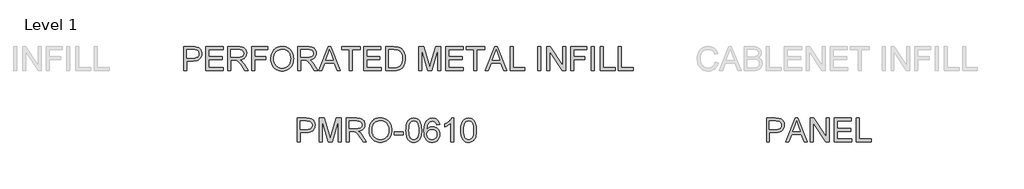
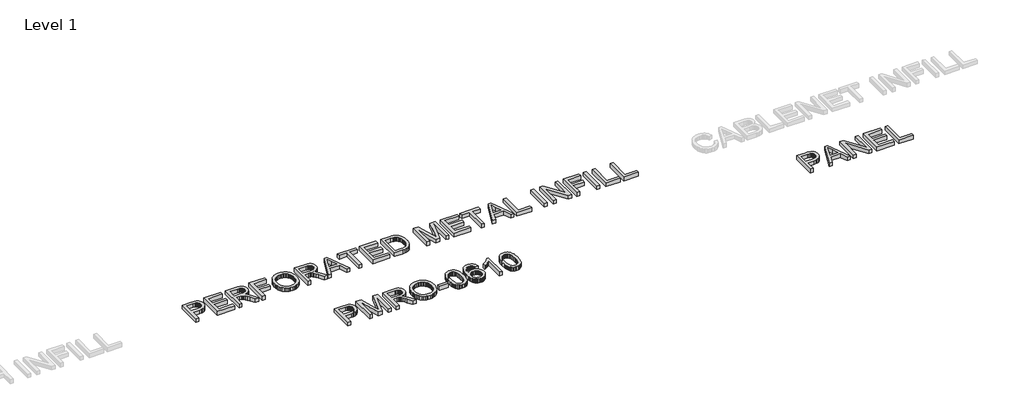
# One storey, part 5 of 8: 3 proxies.
"""IFC4 building model written with IfcOpenShell, lengths in millimetres."""

from ifc_helpers import new_model, si_unit, origin, origin_with_axes, place, context, project, spatial, polyline, outline, extrude, element, save

model = new_model("IFC4")

# Units and contexts
model_context = context("Model", 3, world=origin())
ifc_project = project(units=[si_unit("LENGTHUNIT", "METRE", prefix="MILLI")], contexts=[model_context])

# Site, building, storey
site = spatial("IfcSite", under=ifc_project)
building = spatial("IfcBuilding", under=site)
storey = spatial("IfcBuildingStorey", under=building, Name="Level 1", Elevation=0.0)

# Proxies
placement = place(None, origin())
element("IfcBuildingElementProxy", 1, Name="36\" Arial", ObjectType="36\" Arial", at=placement, inside=storey, context=model_context, shape_type="SweptSolid", body=[
    extrude(outline(polyline([(29500.5376792, -20037.2054696), (29500.5376792, -19123.5041874), (29839.1603712, -19123.5041874), (29918.0161825, -19125.6791355), (29975.6801917, -19132.2039798), (30036.5508551, -19148.4603229), (30062.949985, -19160.4155665), (30086.6583137, -19174.9221917), (30107.9267968, -19192.2799507), (30127.0063897, -19212.7885961), (30143.8970926, -19236.4481279), (30158.5989054, -19263.2585461), (30170.5053521, -19292.3345352), (30179.009957, -19322.7907799), (30184.1127199, -19354.6272801), (30185.8136408, -19387.8440359), (30181.21976, -19443.9326018), (30167.4381176, -19495.5318518), (30144.4687136, -19542.6417857), (30112.3115479, -19585.2624037), (30092.0869703, -19604.188635), (30068.1642837, -19620.5913687), (30040.5434882, -19634.4706049), (30009.2245838, -19645.8263437), (29974.2075705, -19654.6585849), (29935.4924483, -19660.9673287), (29846.9678773, -19666.0143237), (29614.7503395, -19666.0143237), (29614.7503395, -20037.2054696), (29500.5376792, -20037.2054696)]), holes=[polyline([(29614.7503395, -19551.8016634), (29853.6600253, -19551.8016634), (29908.5914073, -19549.1805721), (29954.9345327, -19541.3172981), (29992.6894013, -19528.2118415), (30021.8560133, -19509.8642022), (30043.6194365, -19486.7623494), (30059.1647387, -19459.3942522), (30068.4919201, -19427.7599107), (30071.6009806, -19391.8593247), (30069.7676108, -19365.2022682), (30064.2675016, -19340.5528562), (30055.100653, -19317.9110886), (30042.2670649, -19297.2769654), (30026.4498941, -19279.3197014), (30008.3322974, -19264.7085115), (29987.9142748, -19253.4433956), (29965.1958264, -19245.5243537), (29921.1391849, -19239.6687242), (29850.9831661, -19237.7168476), (29614.7503395, -19237.7168476), (29614.7503395, -19551.8016634)])]), origin_with_axes(), (0.0, 0.0, 1.0), 152.4),
    extrude(outline(polyline([(30342.8560487, -20037.2054696), (30342.8560487, -19123.5041874), (30539.3821302, -19123.5041874), (30726.3161327, -19767.5119026), (30764.0152335, -19902.0240787), (30804.8373367, -19756.3583225), (30988.6483368, -19123.5041874), (31185.1744183, -19123.5041874), (31185.1744183, -20037.2054696), (31070.961758, -20037.2054696), (31070.961758, -19237.7168476), (30841.4210794, -20037.2054696), (30686.6093876, -20037.2054696), (30457.068709, -19237.7168476), (30457.068709, -20037.2054696), (30342.8560487, -20037.2054696)])), origin_with_axes(), (0.0, 0.0, 1.0), 152.4),
    extrude(outline(polyline([(31385.0465737, -20037.2054696), (31385.0465737, -19123.5041874), (31778.7679514, -19123.5041874), (31835.2817476, -19125.0447756), (31884.5875427, -19129.6665404), (31926.6853366, -19137.3694816), (31961.5751294, -19148.1535994), (31991.2854784, -19162.8484412), (32017.844941, -19182.2835545), (32041.2535172, -19206.4589394), (32061.5112071, -19235.3745958), (32077.8581729, -19267.4759936), (32089.5345771, -19301.2086024), (32096.5404196, -19336.5724223), (32098.8757005, -19373.5674533), (32095.0068024, -19420.4961416), (32083.4001081, -19463.5768448), (32064.0556176, -19502.8095628), (32036.9733309, -19538.1942957), (32001.8046986, -19568.6017434), (31958.2011714, -19592.9026061), (31906.1627492, -19611.0968836), (31845.6894321, -19623.1845761), (31883.3327649, -19647.7782202), (31910.6032683, -19672.0372569), (31957.3925368, -19727.526318), (32003.1779832, -19789.5959912), (32155.5358874, -20037.2054696), (32022.8082841, -20037.2054696), (31903.9111202, -19847.8176794), (31856.3411011, -19775.5424803), (31818.0285534, -19722.451439), (31786.1014304, -19685.8955802), (31757.687685, -19663.2259287), (31730.779673, -19649.9252844), (31703.3697499, -19641.4764474), (31637.1174841, -19637.4611586), (31499.259234, -19637.4611586), (31499.259234, -20037.2054696), (31385.0465737, -20037.2054696)]), holes=[polyline([(31499.259234, -19523.2484983), (31754.89929, -19523.2484983), (31828.3177311, -19519.2053255), (31885.2846414, -19507.0758072), (31908.1913066, -19497.7765098), (31928.170157, -19486.0513087), (31945.2211925, -19471.9002039), (31959.3444133, -19455.3231955), (31970.4213126, -19437.1358889), (31978.3333835, -19418.1538898), (31983.080626, -19398.3771981), (31984.6630402, -19377.8058138), (31981.6446026, -19348.5973759), (31972.5892897, -19322.0936811), (31957.4971016, -19298.2947296), (31936.3680383, -19277.2005212), (31908.7141307, -19259.926414), (31874.0474095, -19247.587766), (31832.3678748, -19240.1845772), (31783.6755267, -19237.7168476), (31499.259234, -19237.7168476), (31499.259234, -19523.2484983)])]), origin_with_axes(), (0.0, 0.0, 1.0), 152.4),
    extrude(outline(polyline([(32255.9181083, -19592.400695), (32257.8211879, -19537.2776108), (32263.5304268, -19485.2287321), (32273.0458248, -19436.254059), (32286.367382, -19390.3535914), (32303.4950985, -19347.5273293), (32324.4289741, -19307.7752727), (32349.169009, -19271.0974216), (32377.7152031, -19237.493776), (32409.2693783, -19207.4313922), (32443.0333566, -19181.3773261), (32479.0071379, -19159.331578), (32517.1907223, -19141.2941476), (32557.5841097, -19127.2650352), (32600.1873003, -19117.2442405), (32645.0002938, -19111.2317638), (32692.0230904, -19109.2276048), (32753.4932588, -19112.9919381), (32811.8683087, -19124.284938), (32867.1482401, -19143.1066044), (32919.333053, -19169.4569374), (32966.95884, -19202.5412444), (33008.5616938, -19241.5648328), (33044.1416144, -19286.5277026), (33073.6986016, -19337.4298538), (33096.9259322, -19393.1141025), (33113.5168826, -19452.4232647), (33123.4714529, -19515.3573404), (33126.7896429, -19581.9163297), (33123.2971782, -19649.3536634), (33112.8197839, -19713.1381996), (33095.35746, -19773.2699384), (33070.9102066, -19829.7488796), (33040.0566156, -19881.0832321), (33003.3752791, -19925.7812043), (32960.8661969, -19963.8427964), (32912.5293691, -19995.2680084), (32860.2678753, -20019.8616525), (32805.9847952, -20037.4285412), (32749.6801286, -20047.9686744), (32691.3538756, -20051.4820521), (32628.8101752, -20047.599212), (32569.6683167, -20035.9506918), (32513.9283001, -20016.5364914), (32461.5901255, -19989.3566109), (32414.0201063, -19955.4636694), (32372.5845562, -19915.9102859), (32337.2834752, -19870.6964606), (32308.1168632, -19819.8221933), (32285.279908, -19765.3299835), (32268.9677971, -19709.2623305), (32259.1805305, -19651.6192344), (32255.9181083, -19592.400695)]), holes=[polyline([(32370.1307686, -19593.516053), (32375.8400074, -19669.2349199), (32382.9765559, -19703.9051266), (32392.9677239, -19736.449182), (32405.8135112, -19766.8670863), (32421.513918, -19795.1588393), (32440.0689441, -19821.3244411), (32461.4785897, -19845.3638918), (32510.059402, -19885.572548), (32536.5299846, -19901.3688059), (32564.454018, -19914.2930168), (32624.6624376, -19931.5252981), (32690.6846608, -19937.2693918), (32757.8361841, -19931.4695302), (32789.0749221, -19924.2197031), (32818.7556444, -19914.0699452), (32846.878351, -19901.0202565), (32873.4430418, -19885.0706369), (32898.449717, -19866.2210866), (32921.8983764, -19844.4716054), (32943.1511747, -19820.0557214), (32961.5702666, -19793.2069628), (32977.1556521, -19763.9253295), (32989.9073311, -19732.2108216), (32999.8253037, -19698.063439), (33006.9095698, -19661.4831818), (33012.5769827, -19581.0240433), (33010.151079, -19528.7555785), (33002.873368, -19479.9168396), (32990.7438496, -19434.5078266), (32973.7625239, -19392.5285395), (32952.1176075, -19354.5296863), (32925.9973171, -19321.061975), (32895.4016527, -19292.1254056), (32860.3306142, -19267.7199781), (32821.8716758, -19248.3476037), (32781.1123115, -19234.5101934), (32738.0525213, -19226.2077472), (32692.6923053, -19223.4402651), (32628.9635369, -19228.7730706), (32569.8356204, -19244.7714871), (32515.3085557, -19271.4355145), (32465.3823427, -19308.7651529), (32443.057755, -19331.8792049), (32423.709779, -19358.5589171), (32407.3384147, -19388.8042894), (32393.9436621, -19422.6153218), (32383.5255212, -19459.9920144), (32376.083992, -19500.9343671), (32371.6190745, -19545.44238), (32370.1307686, -19593.516053)])]), origin_with_axes(), (0.0, 0.0, 1.0), 152.4),
    extrude(outline(polyline([(33212.4491381, -19765.9504014), (33212.4491381, -19651.7377411), (33569.3637015, -19651.7377411), (33569.3637015, -19765.9504014), (33212.4491381, -19765.9504014)])), origin_with_axes(), (0.0, 0.0, 1.0), 152.4),
    extrude(outline(polyline([(33669.2997792, -19587.7161913), (33671.3980465, -19510.8889374), (33677.6928483, -19441.4648722), (33688.1841846, -19379.4439958), (33702.8720554, -19324.8263083), (33721.6937218, -19277.1656663), (33744.586445, -19236.0159267), (33771.5502249, -19201.3770895), (33802.5850615, -19173.2491546), (33837.7955197, -19151.4857315), (33877.2861643, -19135.9404292), (33921.0569952, -19126.6132478), (33969.1080125, -19123.5041874), (34005.2177281, -19125.3445281), (34039.4871029, -19130.8655502), (34071.9161371, -19140.0672538), (34102.5048305, -19152.9496388), (34130.5142586, -19169.2966047), (34155.2054965, -19188.8920507), (34176.5785444, -19211.735977), (34194.6334022, -19237.8283834), (34224.4134611, -19299.3403777), (34248.1705867, -19373.0097743), (34257.2468125, -19416.334462), (34263.7298309, -19466.5604274), (34268.9162457, -19587.7161913), (34266.8388914, -19664.0554762), (34260.6068285, -19733.130992), (34250.220057, -19794.9427387), (34235.678577, -19849.4907164), (34217.0033013, -19897.1722714), (34194.2151429, -19938.3847498), (34167.3141019, -19973.1281519), (34136.3001782, -20001.4024774), (34101.0478941, -20023.3122914), (34061.4317718, -20038.9621584), (34017.4518112, -20048.3520787), (33969.1080125, -20051.4820521), (33906.2018207, -20046.0446818), (33850.4339202, -20029.7325709), (33825.2268291, -20017.4984877), (33801.8043109, -20002.5457194), (33780.1663655, -19984.8742659), (33760.3129929, -19964.4841273), (33738.981771, -19932.1979984), (33720.4947119, -19895.68048), (33704.8518158, -19854.9315722), (33692.0530827, -19809.9512749), (33682.0985124, -19760.7395882), (33674.9881051, -19707.296512), (33669.2997792, -19587.7161913)]), holes=[polyline([(33783.5124395, -19587.4931197), (33786.8585136, -19686.7808956), (33796.8967356, -19767.1494113), (33813.6271058, -19828.5986667), (33824.5018464, -19852.2285718), (33837.049624, -19871.1286618), (33865.3797175, -19900.0652312), (33896.8328134, -19920.7342093), (33931.4089117, -19933.1355962), (33969.1080125, -19937.2693918), (34006.8071132, -19933.1216542), (34041.3832116, -19920.6784414), (34072.8363074, -19899.9397534), (34101.1664009, -19870.9055902), (34113.7141785, -19851.9601887), (34124.5889191, -19828.3058852), (34141.3192893, -19766.8705718), (34151.3575114, -19686.59965), (34154.7035854, -19587.4931197), (34151.4690472, -19490.8334062), (34141.7654325, -19411.880001), (34125.5927413, -19350.6329042), (34115.0804921, -19326.6492215), (34102.9509737, -19307.0921159), (34075.0949074, -19276.740436), (34043.2793202, -19255.0606647), (34007.504212, -19242.0528019), (33967.7695829, -19237.7168476), (33930.2656698, -19241.5369488), (33896.2751344, -19252.9972524), (33865.7979767, -19272.0977583), (33838.8341968, -19298.8384666), (33825.86816, -19320.476412), (33814.630928, -19346.2411821), (33797.3428789, -19410.1511961), (33786.9700494, -19490.5685086), (33783.5124395, -19587.4931197)])]), origin_with_axes(), (0.0, 0.0, 1.0), 152.4),
    extrude(outline(polyline([(34954.1922073, -19366.2060905), (34839.9795471, -19380.482673), (34821.5761399, -19323.878254), (34809.9485326, -19302.3100184), (34796.7036563, -19285.2310989), (34772.1518381, -19264.443614), (34744.8952767, -19249.5954105), (34714.9339721, -19240.6864883), (34682.2679244, -19237.7168476), (34655.3320284, -19239.4456526), (34629.1768831, -19244.6320673), (34603.8024883, -19253.2760919), (34579.2088442, -19265.3777263), (34556.7692352, -19285.16836), (34536.2954448, -19309.0718764), (34517.7874728, -19337.0882754), (34501.2453193, -19369.2175571), (34487.5473287, -19407.5789017), (34477.5718455, -19454.2914893), (34471.3188697, -19509.3553201), (34468.7884012, -19572.770394), (34490.5587953, -19544.0708382), (34514.6017315, -19519.3168613), (34540.9172095, -19498.5084635), (34569.5052295, -19481.6456445), (34599.5989828, -19468.6168688), (34630.4316608, -19459.3106004), (34662.0032635, -19453.7268393), (34694.3137909, -19451.8655857), (34749.189405, -19456.9544066), (34799.8266587, -19472.2208694), (34846.2255519, -19497.664974), (34888.3860847, -19533.2867204), (34923.4222682, -19576.9669285), (34948.4481136, -19626.586418), (34963.4636208, -19682.1451889), (34968.4687899, -19743.6432412), (34966.1125961, -19785.2809499), (34959.0440147, -19825.4268673), (34947.2630457, -19864.0809934), (34930.7696891, -19901.2433281), (34910.1495079, -19935.5266449), (34885.988065, -19965.5437174), (34858.2853604, -19991.2945455), (34827.0413942, -20012.7791291), (34792.925381, -20029.7116579), (34756.6065358, -20041.8063214), (34718.0848585, -20049.0631194), (34677.3603491, -20051.4820521), (34642.4932121, -20049.878725), (34609.2747136, -20045.0687435), (34577.7048536, -20037.0521078), (34547.7836323, -20025.8288179), (34519.5110495, -20011.3988736), (34492.8871052, -19993.7622751), (34467.9117995, -19972.9190222), (34444.5851323, -19948.8691151), (34423.4891812, -19921.1385266), (34405.2060236, -19889.2532295), (34389.7356594, -19853.2132238), (34377.0780888, -19813.0185095), (34367.2333116, -19768.6690866), (34360.2013279, -19720.1649551), (34354.5757409, -19610.6925664), (34356.1372421, -19547.0788193), (34360.8217458, -19487.9613593), (34368.6292518, -19433.3401862), (34379.5597603, -19383.2153001), (34393.6132713, -19337.586701), (34410.7897846, -19296.4543889), (34431.0893004, -19259.8183637), (34454.5118186, -19227.6786255), (34477.2616366, -19203.2627416), (34501.9005921, -19182.1023088), (34528.4286853, -19164.1973273), (34556.8459161, -19149.5477969), (34587.1522845, -19138.1537177), (34619.3477906, -19130.0150898), (34653.4324343, -19125.131913), (34689.4062157, -19123.5041874), (34742.0092878, -19127.5334182), (34789.6211329, -19139.6211106), (34832.2417509, -19159.7672647), (34869.8711418, -19187.9718804), (34901.4915414, -19223.2869034), (34926.0851855, -19264.7642794), (34943.6520741, -19312.4040084), (34954.1922073, -19366.2060905)]), holes=[polyline([(34468.7884012, -19741.8586684), (34470.4405252, -19767.4491637), (34475.3968974, -19792.4680381), (34483.6575177, -19816.9152915), (34495.222386, -19840.7909239), (34509.5268525, -19862.9726064), (34526.0062671, -19882.3380098), (34544.6606298, -19898.8871343), (34565.4899407, -19912.6199798), (34588.3617509, -19923.4040976), (34613.1436117, -19931.1070388), (34639.8355231, -19935.7288036), (34668.4374851, -19937.2693918), (34708.1372592, -19934.0766795), (34743.8078026, -19924.4985426), (34775.4491152, -19908.5349811), (34803.0611969, -19886.1859949), (34825.45898, -19858.3578126), (34841.4573964, -19825.9566624), (34851.0564463, -19788.9825443), (34854.2561296, -19747.4354584), (34851.0982722, -19707.5126127), (34841.6247001, -19672.0651409), (34825.8354133, -19641.0930431), (34803.7304117, -19614.5963194), (34776.0346781, -19593.3696623), (34743.4731952, -19578.2077643), (34706.045963, -19569.1106255), (34663.7529814, -19566.0782459), (34624.5830023, -19569.1106255), (34588.4941997, -19578.2077643), (34555.4865735, -19593.3696623), (34525.5601239, -19614.5963194), (34500.7224952, -19640.7444938), (34482.9813319, -19670.6709434), (34472.3366338, -19704.3756683), (34468.7884012, -19741.8586684)])]), origin_with_axes(), (0.0, 0.0, 1.0), 152.4),
    extrude(outline(polyline([(35496.7023437, -20037.2054696), (35382.4896834, -20037.2054696), (35382.4896834, -19325.1609157), (35334.8081284, -19363.7244189), (35274.2999564, -19402.2321542), (35210.7803177, -19435.8880822), (35154.0643628, -19459.8961633), (35154.0643628, -19351.9295079), (35200.4144592, -19328.6882354), (35243.7670308, -19303.132595), (35284.1220778, -19275.2625867), (35321.4796002, -19245.0782105), (35354.7242399, -19213.973664), (35382.7406389, -19183.3431446), (35405.5287973, -19153.1866524), (35423.088715, -19123.5041874), (35496.7023437, -19123.5041874), (35496.7023437, -20037.2054696)])), origin_with_axes(), (0.0, 0.0, 1.0), 152.4),
    extrude(outline(polyline([(35767.9574118, -19587.7161913), (35770.0556791, -19510.8889374), (35776.3504808, -19441.4648722), (35786.8418171, -19379.4439958), (35801.5296879, -19324.8263083), (35820.3513544, -19277.1656663), (35843.2440775, -19236.0159267), (35870.2078574, -19201.3770895), (35901.2426941, -19173.2491546), (35936.4531523, -19151.4857315), (35975.9437968, -19135.9404292), (36019.7146277, -19126.6132478), (36067.765645, -19123.5041874), (36103.8753606, -19125.3445281), (36138.1447355, -19130.8655502), (36170.5737697, -19140.0672538), (36201.1624631, -19152.9496388), (36229.1718911, -19169.2966047), (36253.8631291, -19188.8920507), (36275.236177, -19211.735977), (36293.2910348, -19237.8283834), (36323.0710936, -19299.3403777), (36346.8282193, -19373.0097743), (36355.9044451, -19416.334462), (36362.3874635, -19466.5604274), (36367.5738783, -19587.7161913), (36365.496524, -19664.0554762), (36359.2644611, -19733.130992), (36348.8776896, -19794.9427387), (36334.3362095, -19849.4907164), (36315.6609339, -19897.1722714), (36292.8727755, -19938.3847498), (36265.9717345, -19973.1281519), (36234.9578108, -20001.4024774), (36199.7055267, -20023.3122914), (36160.0894044, -20038.9621584), (36116.1094438, -20048.3520787), (36067.765645, -20051.4820521), (36004.8594532, -20046.0446818), (35949.0915527, -20029.7325709), (35923.8844617, -20017.4984877), (35900.4619435, -20002.5457194), (35878.8239981, -19984.8742659), (35858.9706255, -19964.4841273), (35837.6394035, -19932.1979984), (35819.1523445, -19895.68048), (35803.5094484, -19854.9315722), (35790.7107152, -19809.9512749), (35780.756145, -19760.7395882), (35773.6457377, -19707.296512), (35767.9574118, -19587.7161913)]), holes=[polyline([(35882.1700721, -19587.4931197), (35885.5161461, -19686.7808956), (35895.5543682, -19767.1494113), (35912.2847384, -19828.5986667), (35923.159479, -19852.2285718), (35935.7072566, -19871.1286618), (35964.0373501, -19900.0652312), (35995.490446, -19920.7342093), (36030.0665443, -19933.1355962), (36067.765645, -19937.2693918), (36105.4647458, -19933.1216542), (36140.0408441, -19920.6784414), (36171.49394, -19899.9397534), (36199.8240335, -19870.9055902), (36212.3718111, -19851.9601887), (36223.2465517, -19828.3058852), (36239.9769219, -19766.8705718), (36250.015144, -19686.59965), (36253.361218, -19587.4931197), (36250.1266798, -19490.8334062), (36240.4230651, -19411.880001), (36224.2503739, -19350.6329042), (36213.7381247, -19326.6492215), (36201.6086063, -19307.0921159), (36173.75254, -19276.740436), (36141.9369527, -19255.0606647), (36106.1618445, -19242.0528019), (36066.4272154, -19237.7168476), (36028.9233023, -19241.5369488), (35994.9327669, -19252.9972524), (35964.4556093, -19272.0977583), (35937.4918294, -19298.8384666), (35924.5257925, -19320.476412), (35913.2885606, -19346.2411821), (35896.0005114, -19410.1511961), (35885.6276819, -19490.5685086), (35882.1700721, -19587.4931197)])]), origin_with_axes(), (0.0, 0.0, 1.0), 152.4),
])
element("IfcBuildingElementProxy", 2, Name="36\" Arial", ObjectType="36\" Arial", at=placement, inside=storey, context=model_context, shape_type="SweptSolid", body=[
    extrude(outline(polyline([(25163.7904325, -17294.991279), (25163.7904325, -16381.2899968), (25502.4131245, -16381.2899968), (25581.2689358, -16383.464945), (25638.932945, -16389.9897893), (25699.8036084, -16406.2461323), (25726.2027383, -16418.201376), (25749.911067, -16432.7080011), (25771.1795501, -16450.0657602), (25790.259143, -16470.5744056), (25807.1498459, -16494.2339374), (25821.8516587, -16521.0443556), (25833.7581054, -16550.1203447), (25842.2627103, -16580.5765894), (25847.3654732, -16612.4130896), (25849.0663941, -16645.6298453), (25844.4725133, -16701.7184113), (25830.6908709, -16753.3176612), (25807.7214669, -16800.4275952), (25775.5643012, -16843.0482132), (25755.3397236, -16861.9744444), (25731.417037, -16878.3771782), (25703.7962415, -16892.2564144), (25672.4773371, -16903.6121532), (25637.4603238, -16912.4443944), (25598.7452016, -16918.7531381), (25510.2206305, -16923.8001331), (25278.0030928, -16923.8001331), (25278.0030928, -17294.991279), (25163.7904325, -17294.991279)]), holes=[polyline([(25278.0030928, -16809.5874729), (25516.9127786, -16809.5874729), (25571.8441606, -16806.9663815), (25618.187286, -16799.1031076), (25655.9421546, -16785.9976509), (25685.1087666, -16767.6500117), (25706.8721898, -16744.5481589), (25722.417492, -16717.1800617), (25731.7446734, -16685.5457201), (25734.8537339, -16649.6451342), (25733.0203641, -16622.9880777), (25727.5202549, -16598.3386657), (25718.3534063, -16575.6968981), (25705.5198182, -16555.0627749), (25689.7026474, -16537.1055109), (25671.5850507, -16522.494321), (25651.1670281, -16511.2292051), (25628.4485797, -16503.3101632), (25584.3919382, -16497.4545336), (25514.2359194, -16495.5026571), (25278.0030928, -16495.5026571), (25278.0030928, -16809.5874729)])]), origin_with_axes(), (0.0, 0.0, 1.0), 152.4),
    extrude(outline(polyline([(26006.108802, -17294.991279), (26006.108802, -16381.2899968), (26662.8315986, -16381.2899968), (26662.8315986, -16495.5026571), (26120.3214623, -16495.5026571), (26120.3214623, -16766.7577253), (26634.2784335, -16766.7577253), (26634.2784335, -16880.9703855), (26120.3214623, -16880.9703855), (26120.3214623, -17180.7786188), (26677.1081811, -17180.7786188), (26677.1081811, -17294.991279), (26006.108802, -17294.991279)])), origin_with_axes(), (0.0, 0.0, 1.0), 152.4),
    extrude(outline(polyline([(26848.4271716, -17294.991279), (26848.4271716, -16381.2899968), (27242.1485493, -16381.2899968), (27298.6623455, -16382.8305851), (27347.9681405, -16387.4523498), (27390.0659344, -16395.1552911), (27424.9557272, -16405.9394089), (27454.6660762, -16420.6342507), (27481.2255388, -16440.069364), (27504.6341151, -16464.2447489), (27524.8918049, -16493.1604053), (27541.2387708, -16525.261803), (27552.9151749, -16558.9944119), (27559.9210174, -16594.3582318), (27562.2562983, -16631.3532628), (27558.3874002, -16678.2819511), (27546.7807059, -16721.3626542), (27527.4362154, -16760.5953723), (27500.3539287, -16795.9801051), (27465.1852964, -16826.3875529), (27421.5817692, -16850.6884156), (27369.543347, -16868.8826931), (27309.0700299, -16880.9703855), (27346.7133627, -16905.5640297), (27373.9838661, -16929.8230664), (27420.7731346, -16985.3121274), (27466.558581, -17047.3818007), (27618.9164852, -17294.991279), (27486.188882, -17294.991279), (27367.291718, -17105.6034889), (27319.7216989, -17033.3282898), (27281.4091512, -16980.2372485), (27249.4820282, -16943.6813897), (27221.0682829, -16921.0117381), (27194.1602709, -16907.7110938), (27166.7503477, -16899.2622569), (27100.4980819, -16895.2469681), (26962.6398318, -16895.2469681), (26962.6398318, -17294.991279), (26848.4271716, -17294.991279)]), holes=[polyline([(26962.6398318, -16781.0343078), (27218.2798878, -16781.0343078), (27291.6983289, -16776.991135), (27348.6652393, -16764.8616166), (27371.5719044, -16755.5623192), (27391.5507548, -16743.8371181), (27408.6017904, -16729.6860134), (27422.7250112, -16713.109005), (27433.8019104, -16694.9216984), (27441.7139813, -16675.9396993), (27446.4612238, -16656.1630075), (27448.043638, -16635.5916232), (27445.0252004, -16606.3831853), (27435.9698875, -16579.8794906), (27420.8776995, -16556.0805391), (27399.7486361, -16534.9863307), (27372.0947285, -16517.7122235), (27337.4280073, -16505.3735755), (27295.7484727, -16497.9703867), (27247.0561245, -16495.5026571), (26962.6398318, -16495.5026571), (26962.6398318, -16781.0343078)])]), origin_with_axes(), (0.0, 0.0, 1.0), 152.4),
    extrude(outline(polyline([(27762.1284538, -17294.991279), (27762.1284538, -16381.2899968), (28376.0215027, -16381.2899968), (28376.0215027, -16495.5026571), (27876.341114, -16495.5026571), (27876.341114, -16766.7577253), (28304.6385901, -16766.7577253), (28304.6385901, -16880.9703855), (27876.341114, -16880.9703855), (27876.341114, -17294.991279), (27762.1284538, -17294.991279)])), origin_with_axes(), (0.0, 0.0, 1.0), 152.4),
    extrude(outline(polyline([(28490.234163, -16850.1865045), (28492.1372426, -16795.0634203), (28497.8464814, -16743.0145416), (28507.3618795, -16694.0398685), (28520.6834367, -16648.1394008), (28537.8111531, -16605.3131387), (28558.7450288, -16565.5610821), (28583.4850637, -16528.8832311), (28612.0312578, -16495.2795855), (28643.585433, -16465.2172016), (28677.3494112, -16439.1631356), (28713.3231926, -16417.1173874), (28751.506777, -16399.0799571), (28791.9001644, -16385.0508446), (28834.5033549, -16375.03005), (28879.3163485, -16369.0175732), (28926.3391451, -16367.0134143), (28987.8093135, -16370.7777476), (29046.1843633, -16382.0707474), (29101.4642947, -16400.8924139), (29153.6491077, -16427.2427469), (29201.2748947, -16460.3270539), (29242.8777485, -16499.3506422), (29278.457669, -16544.313512), (29308.0146563, -16595.2156632), (29331.2419869, -16650.8999119), (29347.8329373, -16710.2090741), (29357.7875075, -16773.1431499), (29361.1056976, -16839.7021392), (29357.6132328, -16907.1394729), (29347.1358385, -16970.9240091), (29329.6735147, -17031.0557478), (29305.2262613, -17087.5346891), (29274.3726703, -17138.8690415), (29237.6913338, -17183.5670138), (29195.1822516, -17221.6286059), (29146.8454238, -17253.0538178), (29094.58393, -17277.647462), (29040.3008498, -17295.2143506), (28983.9961833, -17305.7544838), (28925.6699303, -17309.2678616), (28863.1262299, -17305.3850215), (28803.9843714, -17293.7365013), (28748.2443548, -17274.3223009), (28695.9061801, -17247.1424204), (28648.336161, -17213.2494788), (28606.9006109, -17173.6960954), (28571.5995299, -17128.48227), (28542.4329179, -17077.6080028), (28519.5959626, -17023.115793), (28503.2838517, -16967.04814), (28493.4965852, -16909.4050438), (28490.234163, -16850.1865045)]), holes=[polyline([(28604.4468233, -16851.3018625), (28610.1560621, -16927.0207294), (28617.2926106, -16961.6909361), (28627.2837786, -16994.2349915), (28640.1295659, -17024.6528958), (28655.8299726, -17052.9446488), (28674.3849988, -17079.1102506), (28695.7946443, -17103.1497012), (28744.3754567, -17143.3583575), (28770.8460392, -17159.1546153), (28798.7700727, -17172.0788263), (28858.9784923, -17189.3111075), (28925.0007155, -17195.0552013), (28992.1522387, -17189.2553396), (29023.3909768, -17182.0055126), (29053.0716991, -17171.8557547), (29081.1944057, -17158.806066), (29107.7590965, -17142.8564464), (29132.7657717, -17124.006896), (29156.2144311, -17102.2574148), (29177.4672294, -17077.8415309), (29195.8863213, -17050.9927723), (29211.4717068, -17021.711139), (29224.2233858, -16989.9966311), (29234.1413583, -16955.8492485), (29241.2256244, -16919.2689912), (29246.8930373, -16838.8098527), (29244.4671337, -16786.541388), (29237.1894226, -16737.7026491), (29225.0599043, -16692.2936361), (29208.0785786, -16650.314349), (29186.4336622, -16612.3154957), (29160.3133718, -16578.8477844), (29129.7177073, -16549.9112151), (29094.6466689, -16525.5057876), (29056.1877305, -16506.1334131), (29015.4283662, -16492.2960028), (28972.368576, -16483.9935566), (28927.0083599, -16481.2260746), (28863.2795916, -16486.5588801), (28804.1516751, -16502.5572965), (28749.6246103, -16529.221324), (28699.6983974, -16566.5509624), (28677.3738097, -16589.6650144), (28658.0258337, -16616.3447266), (28641.6544694, -16646.5900989), (28628.2597168, -16680.4011313), (28617.8415759, -16717.7778239), (28610.4000467, -16758.7201766), (28605.9351291, -16803.2281895), (28604.4468233, -16851.3018625)])]), origin_with_axes(), (0.0, 0.0, 1.0), 152.4),
    extrude(outline(polyline([(29518.1481055, -17294.991279), (29518.1481055, -16381.2899968), (29911.8694832, -16381.2899968), (29968.3832794, -16382.8305851), (30017.6890744, -16387.4523498), (30059.7868684, -16395.1552911), (30094.6766611, -16405.9394089), (30124.3870101, -16420.6342507), (30150.9464728, -16440.069364), (30174.355049, -16464.2447489), (30194.6127389, -16493.1604053), (30210.9597047, -16525.261803), (30222.6361089, -16558.9944119), (30229.6419514, -16594.3582318), (30231.9772322, -16631.3532628), (30228.1083341, -16678.2819511), (30216.5016398, -16721.3626542), (30197.1571493, -16760.5953723), (30170.0748626, -16795.9801051), (30134.9062304, -16826.3875529), (30091.3027031, -16850.6884156), (30039.264281, -16868.8826931), (29978.7909638, -16880.9703855), (30016.4342967, -16905.5640297), (30043.7048, -16929.8230664), (30090.4940686, -16985.3121274), (30136.2795149, -17047.3818007), (30288.6374191, -17294.991279), (30155.9098159, -17294.991279), (30037.012652, -17105.6034889), (29989.4426328, -17033.3282898), (29951.1300852, -16980.2372485), (29919.2029621, -16943.6813897), (29890.7892168, -16921.0117381), (29863.8812048, -16907.7110938), (29836.4712817, -16899.2622569), (29770.2190159, -16895.2469681), (29632.3607658, -16895.2469681), (29632.3607658, -17294.991279), (29518.1481055, -17294.991279)]), holes=[polyline([(29632.3607658, -16781.0343078), (29888.0008218, -16781.0343078), (29961.4192628, -16776.991135), (30018.3861732, -16764.8616166), (30041.2928383, -16755.5623192), (30061.2716887, -16743.8371181), (30078.3227243, -16729.6860134), (30092.4459451, -16713.109005), (30103.5228443, -16694.9216984), (30111.4349152, -16675.9396993), (30116.1821578, -16656.1630075), (30117.7645719, -16635.5916232), (30114.7461343, -16606.3831853), (30105.6908215, -16579.8794906), (30090.5986334, -16556.0805391), (30069.4695701, -16534.9863307), (30041.8156624, -16517.7122235), (30007.1489412, -16505.3735755), (29965.4694066, -16497.9703867), (29916.7770584, -16495.5026571), (29632.3607658, -16495.5026571), (29632.3607658, -16781.0343078)])]), origin_with_axes(), (0.0, 0.0, 1.0), 152.4),
    extrude(outline(polyline([(30325.4442335, -17294.991279), (30690.1663029, -16381.2899968), (30787.4255214, -16381.2899968), (31152.1475909, -17294.991279), (31031.4658541, -17294.991279), (30926.8452728, -17009.4596284), (30550.52348, -17009.4596284), (30446.1259702, -17294.991279), (30325.4442335, -17294.991279)]), holes=[polyline([(30592.4609412, -16895.2469681), (30885.1308832, -16895.2469681), (30802.817462, -16670.6138648), (30738.7959122, -16495.5026571), (30681.9126537, -16650.9835638), (30592.4609412, -16895.2469681)])]), origin_with_axes(), (0.0, 0.0, 1.0), 152.4),
    extrude(outline(polyline([(31502.5930778, -17294.991279), (31502.5930778, -16495.5026571), (31202.7848446, -16495.5026571), (31202.7848446, -16381.2899968), (31916.6139713, -16381.2899968), (31916.6139713, -16495.5026571), (31616.8057381, -16495.5026571), (31616.8057381, -17294.991279), (31502.5930778, -17294.991279)])), origin_with_axes(), (0.0, 0.0, 1.0), 152.4),
    extrude(outline(polyline([(32045.1032141, -17294.991279), (32045.1032141, -16381.2899968), (32701.8260107, -16381.2899968), (32701.8260107, -16495.5026571), (32159.3158744, -16495.5026571), (32159.3158744, -16766.7577253), (32673.2728456, -16766.7577253), (32673.2728456, -16880.9703855), (32159.3158744, -16880.9703855), (32159.3158744, -17180.7786188), (32716.1025932, -17180.7786188), (32716.1025932, -17294.991279), (32045.1032141, -17294.991279)])), origin_with_axes(), (0.0, 0.0, 1.0), 152.4),
    extrude(outline(polyline([(32887.4215836, -17294.991279), (32887.4215836, -16381.2899968), (33202.6217574, -16381.2899968), (33296.8137414, -16384.580303), (33365.6870985, -16394.4512214), (33403.525619, -16405.31202), (33438.5199766, -16419.8256161), (33470.6701713, -16437.9920097), (33499.976203, -16459.8112008), (33533.8412606, -16492.4911905), (33563.1612343, -16529.4095406), (33587.9361241, -16570.5662512), (33608.16593, -16615.9613222), (33623.878536, -16665.1764945), (33635.101826, -16717.7935086), (33641.8358, -16773.8123647), (33644.080458, -16833.2330627), (33642.5607827, -16883.7378676), (33638.0017568, -16931.3009158), (33630.4033803, -16975.9222072), (33619.7656533, -17017.6017418), (33591.9932389, -17091.0759508), (33575.5138243, -17122.6057275), (33557.3056047, -17150.6639525), (33517.375788, -17197.7041766), (33473.8768255, -17233.5350527), (33423.9366706, -17260.1084573), (33364.6832763, -17279.3762669), (33296.0051068, -17291.087526), (33217.7906263, -17294.991279), (32887.4215836, -17294.991279)]), holes=[polyline([(33001.6342439, -17180.7786188), (33203.7371154, -17180.7786188), (33287.3331983, -17176.6517941), (33350.7413012, -17164.2713202), (33398.5901598, -17144.3621797), (33435.50851, -17117.6493554), (33456.5818054, -17094.7496612), (33475.1873712, -17068.2111116), (33491.3252074, -17038.0337064), (33504.995314, -17004.2174457), (33515.8770256, -16966.6926196), (33523.6496768, -16925.3895183), (33528.3132674, -16880.3081417), (33529.8677977, -16831.4484899), (33526.8214761, -16765.1404562), (33517.6825114, -16706.9745359), (33502.4509036, -16656.9507291), (33481.1266526, -16615.0690358), (33455.4385634, -16580.3814017), (33427.115441, -16551.9397724), (33396.1572852, -16529.744148), (33362.5640961, -16513.7945285), (33333.5369039, -16505.7918348), (33296.8695093, -16500.075625), (33200.614113, -16495.5026571), (33001.6342439, -16495.5026571), (33001.6342439, -17180.7786188)])]), origin_with_axes(), (0.0, 0.0, 1.0), 152.4),
    extrude(outline(polyline([(34158.0374292, -17294.991279), (34158.0374292, -16381.2899968), (34354.5635106, -16381.2899968), (34541.4975132, -17025.2977121), (34579.196614, -17159.8098882), (34620.0187171, -17014.144132), (34803.8297173, -16381.2899968), (35000.3557987, -16381.2899968), (35000.3557987, -17294.991279), (34886.1431384, -17294.991279), (34886.1431384, -16495.5026571), (34656.6024599, -17294.991279), (34501.790768, -17294.991279), (34272.2500895, -16495.5026571), (34272.2500895, -17294.991279), (34158.0374292, -17294.991279)])), origin_with_axes(), (0.0, 0.0, 1.0), 152.4),
    extrude(outline(polyline([(35200.2279542, -17294.991279), (35200.2279542, -16381.2899968), (35856.9507508, -16381.2899968), (35856.9507508, -16495.5026571), (35314.4406145, -16495.5026571), (35314.4406145, -16766.7577253), (35828.3975857, -16766.7577253), (35828.3975857, -16880.9703855), (35314.4406145, -16880.9703855), (35314.4406145, -17180.7786188), (35871.2273333, -17180.7786188), (35871.2273333, -17294.991279), (35200.2279542, -17294.991279)])), origin_with_axes(), (0.0, 0.0, 1.0), 152.4),
    extrude(outline(polyline([(36270.9716443, -17294.991279), (36270.9716443, -16495.5026571), (35971.1634111, -16495.5026571), (35971.1634111, -16381.2899968), (36684.9925378, -16381.2899968), (36684.9925378, -16495.5026571), (36385.1843046, -16495.5026571), (36385.1843046, -17294.991279), (36270.9716443, -17294.991279)])), origin_with_axes(), (0.0, 0.0, 1.0), 152.4),
    extrude(outline(polyline([(36707.0766264, -17294.991279), (37071.7986958, -16381.2899968), (37169.0579143, -16381.2899968), (37533.7799838, -17294.991279), (37413.098247, -17294.991279), (37308.4776657, -17009.4596284), (36932.1558729, -17009.4596284), (36827.7583631, -17294.991279), (36707.0766264, -17294.991279)]), holes=[polyline([(36974.0933341, -16895.2469681), (37266.7632761, -16895.2469681), (37184.4498549, -16670.6138648), (37120.4283051, -16495.5026571), (37063.5450466, -16650.9835638), (36974.0933341, -16895.2469681)])]), origin_with_axes(), (0.0, 0.0, 1.0), 152.4),
    extrude(outline(polyline([(37655.8001501, -17294.991279), (37655.8001501, -16381.2899968), (37770.0128104, -16381.2899968), (37770.0128104, -17180.7786188), (38226.8634515, -17180.7786188), (38226.8634515, -17294.991279), (37655.8001501, -17294.991279)])), origin_with_axes(), (0.0, 0.0, 1.0), 152.4),
    extrude(outline(polyline([(38726.5438402, -17294.991279), (38726.5438402, -16381.2899968), (38840.7565005, -16381.2899968), (38840.7565005, -17294.991279), (38726.5438402, -17294.991279)])), origin_with_axes(), (0.0, 0.0, 1.0), 152.4),
    extrude(outline(polyline([(39069.181821, -17294.991279), (39069.181821, -16381.2899968), (39191.425059, -16381.2899968), (39668.7982875, -17105.1573457), (39668.7982875, -16381.2899968), (39783.0109478, -16381.2899968), (39783.0109478, -17294.991279), (39660.7677098, -17294.991279), (39183.3944813, -16570.9008586), (39183.3944813, -17294.991279), (39069.181821, -17294.991279)])), origin_with_axes(), (0.0, 0.0, 1.0), 152.4),
    extrude(outline(polyline([(39982.8831032, -17294.991279), (39982.8831032, -16381.2899968), (40596.7761522, -16381.2899968), (40596.7761522, -16495.5026571), (40097.0957635, -16495.5026571), (40097.0957635, -16766.7577253), (40525.3932396, -16766.7577253), (40525.3932396, -16880.9703855), (40097.0957635, -16880.9703855), (40097.0957635, -17294.991279), (39982.8831032, -17294.991279)])), origin_with_axes(), (0.0, 0.0, 1.0), 152.4),
    extrude(outline(polyline([(40768.0951426, -17294.991279), (40768.0951426, -16381.2899968), (40882.3078029, -16381.2899968), (40882.3078029, -17294.991279), (40768.0951426, -17294.991279)])), origin_with_axes(), (0.0, 0.0, 1.0), 152.4),
    extrude(outline(polyline([(41110.7331235, -17294.991279), (41110.7331235, -16381.2899968), (41224.9457837, -16381.2899968), (41224.9457837, -17180.7786188), (41681.7964248, -17180.7786188), (41681.7964248, -17294.991279), (41110.7331235, -17294.991279)])), origin_with_axes(), (0.0, 0.0, 1.0), 152.4),
    extrude(outline(polyline([(41810.2856677, -17294.991279), (41810.2856677, -16381.2899968), (41924.4983279, -16381.2899968), (41924.4983279, -17180.7786188), (42381.348969, -17180.7786188), (42381.348969, -17294.991279), (41810.2856677, -17294.991279)])), origin_with_axes(), (0.0, 0.0, 1.0), 152.4),
])
element("IfcBuildingElementProxy", 3, Name="36\" Arial", ObjectType="36\" Arial", at=placement, inside=storey, context=model_context, shape_type="SweptSolid", body=[
    extrude(outline(polyline([(47483.1397036, -20037.2054696), (47483.1397036, -19123.5041874), (47821.7623956, -19123.5041874), (47900.6182069, -19125.6791355), (47958.2822161, -19132.2039798), (48019.1528795, -19148.4603229), (48045.5520094, -19160.4155665), (48069.2603381, -19174.9221917), (48090.5288212, -19192.2799507), (48109.6084142, -19212.7885961), (48126.499117, -19236.4481279), (48141.2009298, -19263.2585461), (48153.1073766, -19292.3345352), (48161.6119814, -19322.7907799), (48166.7147443, -19354.6272801), (48168.4156653, -19387.8440359), (48163.8217845, -19443.9326018), (48150.040142, -19495.5318518), (48127.070738, -19542.6417857), (48094.9135724, -19585.2624037), (48074.6889947, -19604.188635), (48050.7663081, -19620.5913687), (48023.1455126, -19634.4706049), (47991.8266082, -19645.8263437), (47956.809595, -19654.6585849), (47918.0944728, -19660.9673287), (47829.5699017, -19666.0143237), (47597.3523639, -19666.0143237), (47597.3523639, -20037.2054696), (47483.1397036, -20037.2054696)]), holes=[polyline([(47597.3523639, -19551.8016634), (47836.2620497, -19551.8016634), (47891.1934317, -19549.1805721), (47937.5365571, -19541.3172981), (47975.2914257, -19528.2118415), (48004.4580377, -19509.8642022), (48026.2214609, -19486.7623494), (48041.7667632, -19459.3942522), (48051.0939445, -19427.7599107), (48054.203005, -19391.8593247), (48052.3696353, -19365.2022682), (48046.8695261, -19340.5528562), (48037.7026774, -19317.9110886), (48024.8690893, -19297.2769654), (48009.0519185, -19279.3197014), (47990.9343218, -19264.7085115), (47970.5162993, -19253.4433956), (47947.7978508, -19245.5243537), (47903.7412094, -19239.6687242), (47833.5851905, -19237.7168476), (47597.3523639, -19237.7168476), (47597.3523639, -19551.8016634)])]), origin_with_axes(), (0.0, 0.0, 1.0), 152.4),
    extrude(outline(polyline([(48219.0529189, -20037.2054696), (48583.7749884, -19123.5041874), (48681.0342069, -19123.5041874), (49045.7562763, -20037.2054696), (48925.0745396, -20037.2054696), (48820.4539582, -19751.6738189), (48444.1321655, -19751.6738189), (48339.7346557, -20037.2054696), (48219.0529189, -20037.2054696)]), holes=[polyline([(48486.0696266, -19637.4611586), (48778.7395686, -19637.4611586), (48696.4261474, -19412.8280553), (48632.4045976, -19237.7168476), (48575.5213391, -19393.1977543), (48486.0696266, -19637.4611586)])]), origin_with_axes(), (0.0, 0.0, 1.0), 152.4),
    extrude(outline(polyline([(49167.7764427, -20037.2054696), (49167.7764427, -19123.5041874), (49290.0196806, -19123.5041874), (49767.3929091, -19847.3715362), (49767.3929091, -19123.5041874), (49881.6055694, -19123.5041874), (49881.6055694, -20037.2054696), (49759.3623314, -20037.2054696), (49281.9891029, -19313.1150492), (49281.9891029, -20037.2054696), (49167.7764427, -20037.2054696)])), origin_with_axes(), (0.0, 0.0, 1.0), 152.4),
    extrude(outline(polyline([(50081.4777249, -20037.2054696), (50081.4777249, -19123.5041874), (50738.2005215, -19123.5041874), (50738.2005215, -19237.7168476), (50195.6903851, -19237.7168476), (50195.6903851, -19508.9719158), (50709.6473564, -19508.9719158), (50709.6473564, -19623.1845761), (50195.6903851, -19623.1845761), (50195.6903851, -19922.9928093), (50752.477104, -19922.9928093), (50752.477104, -20037.2054696), (50081.4777249, -20037.2054696)])), origin_with_axes(), (0.0, 0.0, 1.0), 152.4),
    extrude(outline(polyline([(50923.7960944, -20037.2054696), (50923.7960944, -19123.5041874), (51038.0087547, -19123.5041874), (51038.0087547, -19922.9928093), (51494.8593958, -19922.9928093), (51494.8593958, -20037.2054696), (50923.7960944, -20037.2054696)])), origin_with_axes(), (0.0, 0.0, 1.0), 152.4),
])

save(model, "model.ifc")
